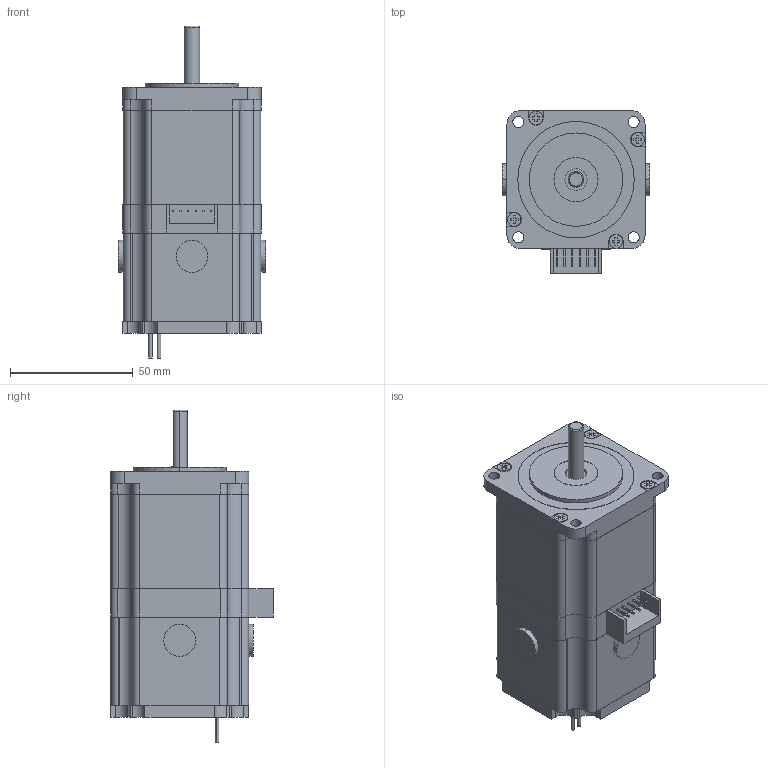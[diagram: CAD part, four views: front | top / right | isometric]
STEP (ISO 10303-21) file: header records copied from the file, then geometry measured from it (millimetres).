
FILE_DESCRIPTION (( 'STEP AP203' ), '1' );
FILE_NAME ('UB57D24-D42-455.STEP', '2020-06-30T07:20:07', ( '' ), ( '' ), 'SwSTEP 2.0', 'SolidWorks 2018', '' );
FILE_SCHEMA (( 'CONFIG_CONTROL_DESIGN' ));
Length unit declared in the file: millimetre
Products named in the file (1): UB57D24-D42-455
Bounding box: 60.2 x 66.4 x 135.5 mm (x, y, z)
Volume: 292282.2 mm3; surface area: 30113.5 mm2
Topology: 1 solids, 3 shells, 301 faces, 787 edges, 521 vertices
Faces by surface type: plane 189, cylinder 109, bspline 3
Entity records: 9397 total; most frequent: CARTESIAN_POINT 1688, DIRECTION 1602, ORIENTED_EDGE 1574, EDGE_CURVE 787, VECTOR 560, LINE 560, AXIS2_PLACEMENT_3D 521, VERTEX_POINT 521
